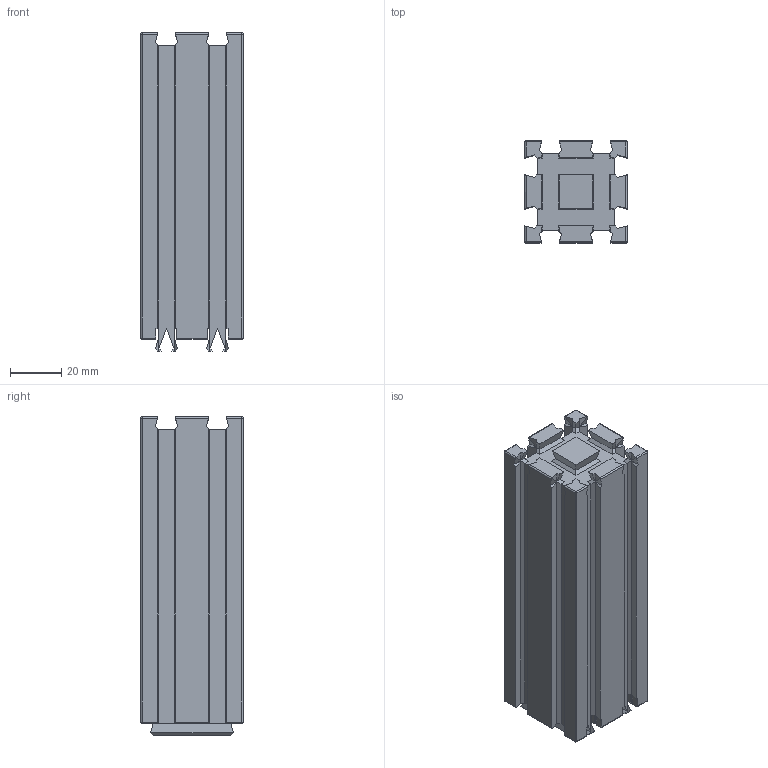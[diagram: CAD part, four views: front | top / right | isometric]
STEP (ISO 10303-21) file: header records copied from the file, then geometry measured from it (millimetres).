
FILE_DESCRIPTION(/* description */ (''),/* implementation_level */ '2;1');
FILE_NAME(/* name */ 'C:/Users/priba/Downloads/BrickDouble2x2x6mf.step',/* time_stamp */ '2022-04-03T23:49:31+02:00',/* author */ (''),/* organization */ (''),/* preprocessor_version */ 'ST-DEVELOPER v18.1',/* originating_system */ 'Autodesk Translation Framework v10.13.0.1454',/* authorisation */ '');
FILE_SCHEMA (('AUTOMOTIVE_DESIGN { 1 0 10303 214 3 1 1 }'));
Length unit declared in the file: millimetre
Products named in the file (2): BrickDouble2x2x6mf; Brick 2x2x2 itself
Assembly tree (1 placements, depth 2):
  BrickDouble2x2x6mf
    Brick 2x2x2 itself
Bounding box: 40 x 40 x 124.61 mm (x, y, z)
Volume: 37925.5 mm3; surface area: 63050.6 mm2
Topology: 1 solids, 1 shells, 481 faces, 1164 edges, 688 vertices
Faces by surface type: plane 445, cylinder 28, sphere 8
Entity records: 13511 total; most frequent: CARTESIAN_POINT 2336, ORIENTED_EDGE 2328, DIRECTION 2204, EDGE_CURVE 1164, LINE 1092, VECTOR 1092, VERTEX_POINT 688, AXIS2_PLACEMENT_3D 556
